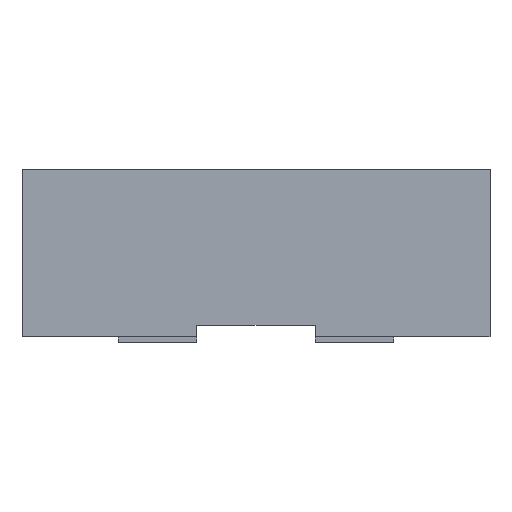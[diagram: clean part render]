
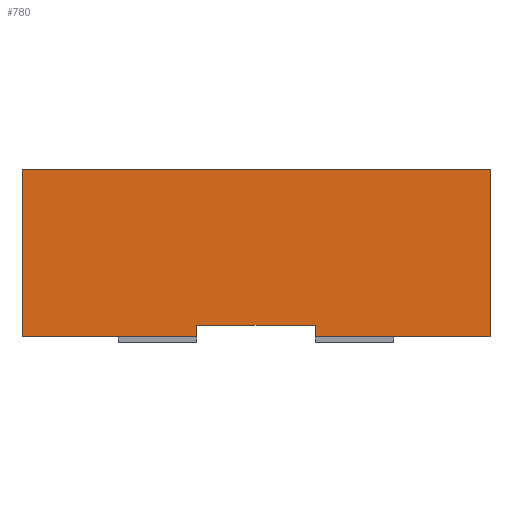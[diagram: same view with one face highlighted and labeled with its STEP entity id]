
A CAD part, front view. The second image highlights one B-rep face of the part: STEP entity #780.
In plain terms, the highlighted planar face has unit normal (0, -1, 0).
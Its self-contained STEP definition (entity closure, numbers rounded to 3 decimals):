
#36 = ORIENTED_EDGE ( 'NONE', *, *, #963, .F. ) ;
#41 = CARTESIAN_POINT ( 'NONE',  ( 16., -33.73, 3.048 ) ) ;
#58 = DIRECTION ( 'NONE',  ( 0., 0., -1. ) ) ;
#78 = LINE ( 'NONE', #704, #984 ) ;
#79 = CARTESIAN_POINT ( 'NONE',  ( 16., -33.73, -3.048 ) ) ;
#83 = EDGE_CURVE ( 'NONE', #930, #766, #716, .T. ) ;
#90 = CARTESIAN_POINT ( 'NONE',  ( 108.22, -33.73, 0. ) ) ;
#114 = CARTESIAN_POINT ( 'NONE',  ( -16., -33.73, 3.048 ) ) ;
#135 = CARTESIAN_POINT ( 'NONE',  ( 16., -33.73, 0. ) ) ;
#160 = DIRECTION ( 'NONE',  ( -1., 0., 0. ) ) ;
#167 = VECTOR ( 'NONE', #160, 1000. ) ;
#170 = CARTESIAN_POINT ( 'NONE',  ( 16., -33.73, 3.048 ) ) ;
#202 = AXIS2_PLACEMENT_3D ( 'NONE', #90, #937, #413 ) ;
#204 = CARTESIAN_POINT ( 'NONE',  ( -62.992, -33.73, 45. ) ) ;
#246 = EDGE_CURVE ( 'NONE', #895, #374, #379, .T. ) ;
#247 = LINE ( 'NONE', #476, #167 ) ;
#262 = VERTEX_POINT ( 'NONE', #921 ) ;
#279 = LINE ( 'NONE', #41, #849 ) ;
#281 = DIRECTION ( 'NONE',  ( -1., 0., 0. ) ) ;
#287 = VECTOR ( 'NONE', #331, 1000. ) ;
#328 = VECTOR ( 'NONE', #578, 1000. ) ;
#331 = DIRECTION ( 'NONE',  ( 0., 0., 1. ) ) ;
#333 = DIRECTION ( 'NONE',  ( 0., 0., 1. ) ) ;
#341 = FACE_OUTER_BOUND ( 'NONE', #888, .T. ) ;
#345 = ORIENTED_EDGE ( 'NONE', *, *, #246, .F. ) ;
#360 = DIRECTION ( 'NONE',  ( -1., 0., 0. ) ) ;
#374 = VERTEX_POINT ( 'NONE', #532 ) ;
#375 = VECTOR ( 'NONE', #608, 1000. ) ;
#379 = LINE ( 'NONE', #906, #754 ) ;
#413 = DIRECTION ( 'NONE',  ( -1., 0., 0. ) ) ;
#440 = VERTEX_POINT ( 'NONE', #204 ) ;
#458 = ORIENTED_EDGE ( 'NONE', *, *, #693, .T. ) ;
#461 = LINE ( 'NONE', #843, #375 ) ;
#465 = ORIENTED_EDGE ( 'NONE', *, *, #858, .T. ) ;
#467 = ORIENTED_EDGE ( 'NONE', *, *, #659, .T. ) ;
#476 = CARTESIAN_POINT ( 'NONE',  ( 108.22, -33.73, 45. ) ) ;
#516 = ORIENTED_EDGE ( 'NONE', *, *, #820, .F. ) ;
#532 = CARTESIAN_POINT ( 'NONE',  ( -62.992, -33.73, 0. ) ) ;
#561 = PLANE ( 'NONE',  #202 ) ;
#566 = EDGE_CURVE ( 'NONE', #854, #895, #78, .T. ) ;
#578 = DIRECTION ( 'NONE',  ( 0., 0., -1. ) ) ;
#591 = VECTOR ( 'NONE', #333, 1000. ) ;
#608 = DIRECTION ( 'NONE',  ( -1., 0., 0. ) ) ;
#659 = EDGE_CURVE ( 'NONE', #262, #440, #247, .T. ) ;
#693 = EDGE_CURVE ( 'NONE', #814, #262, #792, .T. ) ;
#704 = CARTESIAN_POINT ( 'NONE',  ( -16., -33.73, -3.048 ) ) ;
#716 = LINE ( 'NONE', #79, #287 ) ;
#723 = CARTESIAN_POINT ( 'NONE',  ( 62.992, -33.73, 0. ) ) ;
#750 = CARTESIAN_POINT ( 'NONE',  ( -16., -33.73, 0. ) ) ;
#754 = VECTOR ( 'NONE', #281, 1000. ) ;
#766 = VERTEX_POINT ( 'NONE', #170 ) ;
#770 = ORIENTED_EDGE ( 'NONE', *, *, #566, .F. ) ;
#780 = ADVANCED_FACE ( 'NONE', ( #341 ), #561, .F. ) ;
#792 = LINE ( 'NONE', #723, #591 ) ;
#814 = VERTEX_POINT ( 'NONE', #818 ) ;
#818 = CARTESIAN_POINT ( 'NONE',  ( 62.992, -33.73, 0. ) ) ;
#820 = EDGE_CURVE ( 'NONE', #766, #854, #279, .T. ) ;
#841 = ORIENTED_EDGE ( 'NONE', *, *, #83, .F. ) ;
#843 = CARTESIAN_POINT ( 'NONE',  ( 108.22, -33.73, 0. ) ) ;
#849 = VECTOR ( 'NONE', #360, 1000. ) ;
#854 = VERTEX_POINT ( 'NONE', #114 ) ;
#858 = EDGE_CURVE ( 'NONE', #440, #374, #893, .T. ) ;
#888 = EDGE_LOOP ( 'NONE', ( #516, #841, #36, #458, #467, #465, #345, #770 ) ) ;
#893 = LINE ( 'NONE', #960, #328 ) ;
#895 = VERTEX_POINT ( 'NONE', #750 ) ;
#906 = CARTESIAN_POINT ( 'NONE',  ( 108.22, -33.73, 0. ) ) ;
#921 = CARTESIAN_POINT ( 'NONE',  ( 62.992, -33.73, 45. ) ) ;
#930 = VERTEX_POINT ( 'NONE', #135 ) ;
#937 = DIRECTION ( 'NONE',  ( 0., 1., 0. ) ) ;
#960 = CARTESIAN_POINT ( 'NONE',  ( -62.992, -33.73, 0. ) ) ;
#963 = EDGE_CURVE ( 'NONE', #814, #930, #461, .T. ) ;
#984 = VECTOR ( 'NONE', #58, 1000. ) ;
